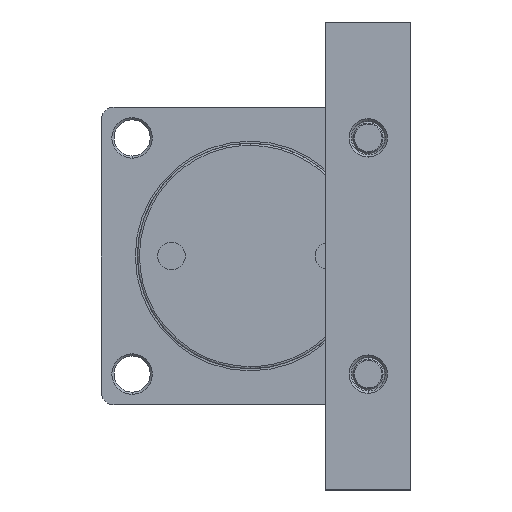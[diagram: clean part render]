
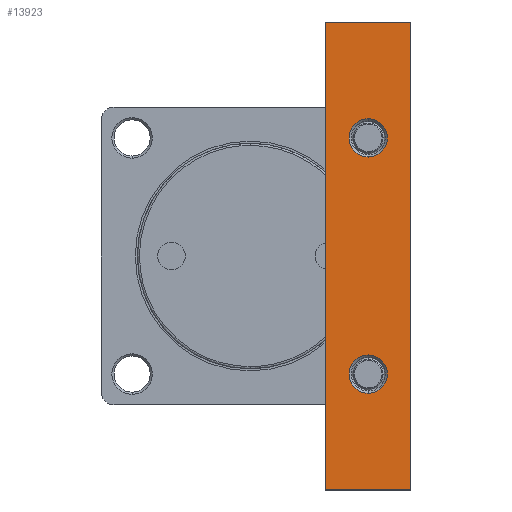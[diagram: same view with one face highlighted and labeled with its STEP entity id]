
A CAD part, left-side view. The second image highlights one B-rep face of the part: STEP entity #13923.
In plain terms, the highlighted planar face has unit normal (1, 0, 0).
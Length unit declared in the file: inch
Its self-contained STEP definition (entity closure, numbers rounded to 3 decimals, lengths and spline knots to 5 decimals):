
#250 = VERTEX_POINT ( 'NONE', #7627 ) ;
#334 = DIRECTION ( 'NONE',  ( -1., 0., 0. ) ) ;
#560 = CARTESIAN_POINT ( 'NONE',  ( -2.61811, -2.18504, -2.18504 ) ) ;
#767 = DIRECTION ( 'NONE',  ( 0., 0., -1. ) ) ;
#840 = EDGE_LOOP ( 'NONE', ( #4991, #11224, #7908, #7818 ) ) ;
#1048 = CARTESIAN_POINT ( 'NONE',  ( -2.61811, -2.97244, 4.33071 ) ) ;
#1089 = LINE ( 'NONE', #1048, #9608 ) ;
#1290 = VERTEX_POINT ( 'NONE', #10016 ) ;
#1410 = AXIS2_PLACEMENT_3D ( 'NONE', #12472, #5967, #13563 ) ;
#1668 = DIRECTION ( 'NONE',  ( 0., 0., 1. ) ) ;
#1762 = VERTEX_POINT ( 'NONE', #11656 ) ;
#2137 = VECTOR ( 'NONE', #13873, 39.37008 ) ;
#2213 = EDGE_CURVE ( 'NONE', #1762, #12226, #2313, .T. ) ;
#2288 = VECTOR ( 'NONE', #8023, 39.37008 ) ;
#2313 = CIRCLE ( 'NONE', #9612, 0.35433 ) ;
#2665 = CARTESIAN_POINT ( 'NONE',  ( -2.61811, -2.18504, 2.53937 ) ) ;
#3721 = CARTESIAN_POINT ( 'NONE',  ( -2.61811, -2.97244, 4.33071 ) ) ;
#3957 = CARTESIAN_POINT ( 'NONE',  ( -2.61811, -2.97244, -4.33071 ) ) ;
#4248 = VERTEX_POINT ( 'NONE', #10584 ) ;
#4495 = FACE_BOUND ( 'NONE', #5883, .T. ) ;
#4870 = ORIENTED_EDGE ( 'NONE', *, *, #12455, .T. ) ;
#4991 = ORIENTED_EDGE ( 'NONE', *, *, #10111, .T. ) ;
#5113 = LINE ( 'NONE', #6288, #2137 ) ;
#5274 = LINE ( 'NONE', #5782, #2288 ) ;
#5718 = ORIENTED_EDGE ( 'NONE', *, *, #2213, .T. ) ;
#5782 = CARTESIAN_POINT ( 'NONE',  ( -2.61811, -2.97244, 4.33071 ) ) ;
#5883 = EDGE_LOOP ( 'NONE', ( #4870, #5718 ) ) ;
#5967 = DIRECTION ( 'NONE',  ( -1., 0., 0. ) ) ;
#6266 = ORIENTED_EDGE ( 'NONE', *, *, #11311, .T. ) ;
#6288 = CARTESIAN_POINT ( 'NONE',  ( -2.61811, -1.39764, 4.33071 ) ) ;
#6344 = PLANE ( 'NONE',  #11168 ) ;
#6762 = VECTOR ( 'NONE', #7488, 39.37008 ) ;
#6856 = ORIENTED_EDGE ( 'NONE', *, *, #10825, .T. ) ;
#6870 = DIRECTION ( 'NONE',  ( 0., 0., 1. ) ) ;
#7037 = CARTESIAN_POINT ( 'NONE',  ( -2.61811, -2.18504, 2.18504 ) ) ;
#7457 = DIRECTION ( 'NONE',  ( 1., 0., 0. ) ) ;
#7483 = FACE_OUTER_BOUND ( 'NONE', #840, .T. ) ;
#7488 = DIRECTION ( 'NONE',  ( 0., 1., 0. ) ) ;
#7627 = CARTESIAN_POINT ( 'NONE',  ( -2.61811, -1.39764, -4.33071 ) ) ;
#7738 = DIRECTION ( 'NONE',  ( 0., -1., 0. ) ) ;
#7818 = ORIENTED_EDGE ( 'NONE', *, *, #9419, .T. ) ;
#7908 = ORIENTED_EDGE ( 'NONE', *, *, #11179, .T. ) ;
#8023 = DIRECTION ( 'NONE',  ( 0., 0., -1. ) ) ;
#8141 = DIRECTION ( 'NONE',  ( 0., 0., 1. ) ) ;
#8368 = DIRECTION ( 'NONE',  ( -1., 0., 0. ) ) ;
#9164 = CARTESIAN_POINT ( 'NONE',  ( -2.61811, -2.97244, 4.33071 ) ) ;
#9419 = EDGE_CURVE ( 'NONE', #10896, #250, #12493, .T. ) ;
#9428 = CARTESIAN_POINT ( 'NONE',  ( -2.61811, -1.39764, 4.33071 ) ) ;
#9608 = VECTOR ( 'NONE', #7738, 39.37008 ) ;
#9612 = AXIS2_PLACEMENT_3D ( 'NONE', #14220, #14237, #6870 ) ;
#9911 = CIRCLE ( 'NONE', #14222, 0.35433 ) ;
#10016 = CARTESIAN_POINT ( 'NONE',  ( -2.61811, -2.18504, -1.83071 ) ) ;
#10036 = VERTEX_POINT ( 'NONE', #9428 ) ;
#10111 = EDGE_CURVE ( 'NONE', #250, #10036, #5113, .T. ) ;
#10584 = CARTESIAN_POINT ( 'NONE',  ( -2.61811, -2.18504, -2.53937 ) ) ;
#10825 = EDGE_CURVE ( 'NONE', #4248, #1290, #11269, .T. ) ;
#10849 = AXIS2_PLACEMENT_3D ( 'NONE', #560, #8368, #1668 ) ;
#10896 = VERTEX_POINT ( 'NONE', #3957 ) ;
#10993 = EDGE_CURVE ( 'NONE', #10036, #13002, #1089, .T. ) ;
#11168 = AXIS2_PLACEMENT_3D ( 'NONE', #3721, #7457, #767 ) ;
#11179 = EDGE_CURVE ( 'NONE', #13002, #10896, #5274, .T. ) ;
#11224 = ORIENTED_EDGE ( 'NONE', *, *, #10993, .T. ) ;
#11269 = CIRCLE ( 'NONE', #10849, 0.35433 ) ;
#11311 = EDGE_CURVE ( 'NONE', #1290, #4248, #12593, .T. ) ;
#11656 = CARTESIAN_POINT ( 'NONE',  ( -2.61811, -2.18504, 1.83071 ) ) ;
#11794 = EDGE_LOOP ( 'NONE', ( #6266, #6856 ) ) ;
#12226 = VERTEX_POINT ( 'NONE', #2665 ) ;
#12455 = EDGE_CURVE ( 'NONE', #12226, #1762, #9911, .T. ) ;
#12472 = CARTESIAN_POINT ( 'NONE',  ( -2.61811, -2.18504, -2.18504 ) ) ;
#12493 = LINE ( 'NONE', #13958, #6762 ) ;
#12593 = CIRCLE ( 'NONE', #1410, 0.35433 ) ;
#13002 = VERTEX_POINT ( 'NONE', #9164 ) ;
#13222 = FACE_BOUND ( 'NONE', #11794, .T. ) ;
#13563 = DIRECTION ( 'NONE',  ( 0., 0., 1. ) ) ;
#13873 = DIRECTION ( 'NONE',  ( 0., 0., 1. ) ) ;
#13923 = ADVANCED_FACE ( 'NONE', ( #7483, #4495, #13222 ), #6344, .T. ) ;
#13958 = CARTESIAN_POINT ( 'NONE',  ( -2.61811, -2.97244, -4.33071 ) ) ;
#14220 = CARTESIAN_POINT ( 'NONE',  ( -2.61811, -2.18504, 2.18504 ) ) ;
#14222 = AXIS2_PLACEMENT_3D ( 'NONE', #7037, #334, #8141 ) ;
#14237 = DIRECTION ( 'NONE',  ( -1., 0., 0. ) ) ;
